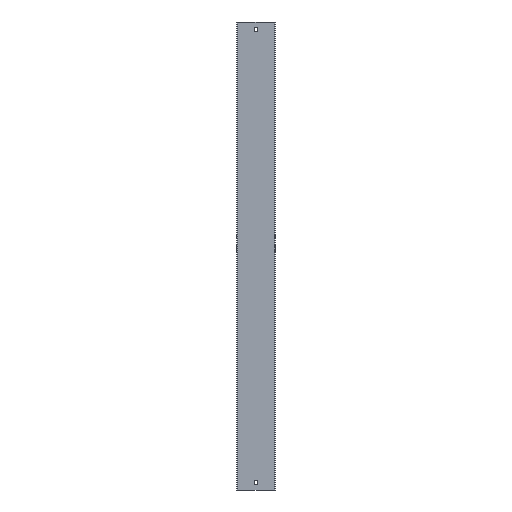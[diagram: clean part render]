
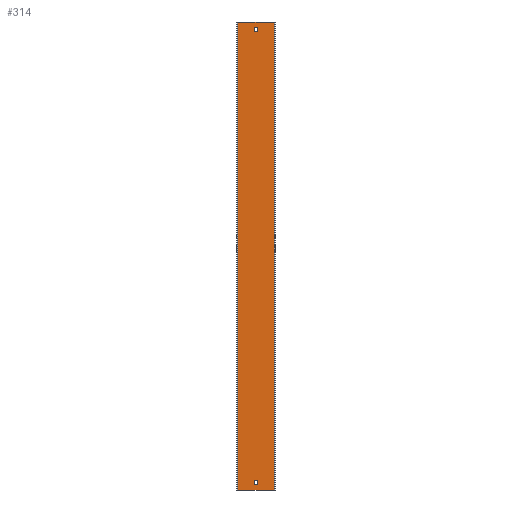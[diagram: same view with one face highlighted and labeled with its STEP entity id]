
A CAD part, front view. The second image highlights one B-rep face of the part: STEP entity #314.
In plain terms, the highlighted planar face has unit normal (0, -1, 0).
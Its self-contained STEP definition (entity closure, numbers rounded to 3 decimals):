
#7 = FACE_BOUND ( 'NONE', #539, .T. ) ;
#10 = DIRECTION ( 'NONE',  ( -1., 0., 0. ) ) ;
#14 = LINE ( 'NONE', #207, #584 ) ;
#22 = EDGE_LOOP ( 'NONE', ( #183, #143, #204, #234 ) ) ;
#34 = DIRECTION ( 'NONE',  ( 1., 0., 0. ) ) ;
#35 = LINE ( 'NONE', #362, #116 ) ;
#43 = FACE_BOUND ( 'NONE', #22, .T. ) ;
#46 = EDGE_CURVE ( 'NONE', #151, #51, #123, .T. ) ;
#49 = PLANE ( 'NONE',  #428 ) ;
#51 = VERTEX_POINT ( 'NONE', #270 ) ;
#54 = CARTESIAN_POINT ( 'NONE',  ( -3.25, -1.5, 479. ) ) ;
#59 = VERTEX_POINT ( 'NONE', #446 ) ;
#65 = EDGE_CURVE ( 'NONE', #430, #77, #35, .T. ) ;
#66 = DIRECTION ( 'NONE',  ( -1., 0., 0. ) ) ;
#68 = VERTEX_POINT ( 'NONE', #344 ) ;
#77 = VERTEX_POINT ( 'NONE', #291 ) ;
#79 = CARTESIAN_POINT ( 'NONE',  ( -39.5, -1.5, 500. ) ) ;
#96 = LINE ( 'NONE', #285, #470 ) ;
#110 = DIRECTION ( 'NONE',  ( 1., 0., 0. ) ) ;
#116 = VECTOR ( 'NONE', #536, 1000. ) ;
#123 = LINE ( 'NONE', #79, #474 ) ;
#132 = LINE ( 'NONE', #392, #144 ) ;
#135 = CARTESIAN_POINT ( 'NONE',  ( 39.5, -1.5, 500. ) ) ;
#143 = ORIENTED_EDGE ( 'NONE', *, *, #200, .F. ) ;
#144 = VECTOR ( 'NONE', #537, 1000. ) ;
#151 = VERTEX_POINT ( 'NONE', #180 ) ;
#156 = LINE ( 'NONE', #570, #296 ) ;
#177 = ORIENTED_EDGE ( 'NONE', *, *, #46, .T. ) ;
#178 = EDGE_CURVE ( 'NONE', #338, #430, #217, .T. ) ;
#180 = CARTESIAN_POINT ( 'NONE',  ( -39.5, -1.5, 500. ) ) ;
#183 = ORIENTED_EDGE ( 'NONE', *, *, #493, .F. ) ;
#185 = DIRECTION ( 'NONE',  ( -1., 0., 0. ) ) ;
#200 = EDGE_CURVE ( 'NONE', #77, #522, #397, .T. ) ;
#204 = ORIENTED_EDGE ( 'NONE', *, *, #65, .F. ) ;
#207 = CARTESIAN_POINT ( 'NONE',  ( -3.25, -1.5, 500. ) ) ;
#211 = VERTEX_POINT ( 'NONE', #361 ) ;
#212 = CARTESIAN_POINT ( 'NONE',  ( -41., -1.5, -500. ) ) ;
#214 = LINE ( 'NONE', #339, #228 ) ;
#217 = LINE ( 'NONE', #312, #497 ) ;
#220 = CARTESIAN_POINT ( 'NONE',  ( 39.5, -1.5, 500. ) ) ;
#223 = VECTOR ( 'NONE', #315, 1000. ) ;
#228 = VECTOR ( 'NONE', #110, 1000. ) ;
#234 = ORIENTED_EDGE ( 'NONE', *, *, #178, .F. ) ;
#238 = DIRECTION ( 'NONE',  ( 0., -1., 0. ) ) ;
#242 = CARTESIAN_POINT ( 'NONE',  ( 3.25, -1.5, -488. ) ) ;
#253 = LINE ( 'NONE', #212, #400 ) ;
#263 = DIRECTION ( 'NONE',  ( 0., 0., -1. ) ) ;
#264 = ORIENTED_EDGE ( 'NONE', *, *, #561, .F. ) ;
#266 = CARTESIAN_POINT ( 'NONE',  ( -3.25, -1.5, 488. ) ) ;
#270 = CARTESIAN_POINT ( 'NONE',  ( -39.5, -1.5, -500. ) ) ;
#281 = EDGE_CURVE ( 'NONE', #543, #151, #96, .T. ) ;
#285 = CARTESIAN_POINT ( 'NONE',  ( -41., -1.5, 500. ) ) ;
#291 = CARTESIAN_POINT ( 'NONE',  ( 3.25, -1.5, 488. ) ) ;
#293 = VECTOR ( 'NONE', #185, 1000. ) ;
#296 = VECTOR ( 'NONE', #426, 1000. ) ;
#305 = EDGE_CURVE ( 'NONE', #340, #59, #337, .T. ) ;
#307 = LINE ( 'NONE', #135, #223 ) ;
#312 = CARTESIAN_POINT ( 'NONE',  ( -41., -1.5, 479. ) ) ;
#314 = ADVANCED_FACE ( 'NONE', ( #43, #499, #7 ), #49, .T. ) ;
#315 = DIRECTION ( 'NONE',  ( 0., 0., -1. ) ) ;
#324 = ORIENTED_EDGE ( 'NONE', *, *, #422, .T. ) ;
#326 = CARTESIAN_POINT ( 'NONE',  ( -41., -1.5, -488. ) ) ;
#334 = ORIENTED_EDGE ( 'NONE', *, *, #558, .T. ) ;
#337 = LINE ( 'NONE', #326, #293 ) ;
#338 = VERTEX_POINT ( 'NONE', #54 ) ;
#339 = CARTESIAN_POINT ( 'NONE',  ( -41., -1.5, -479. ) ) ;
#340 = VERTEX_POINT ( 'NONE', #242 ) ;
#344 = CARTESIAN_POINT ( 'NONE',  ( 3.25, -1.5, -479. ) ) ;
#361 = CARTESIAN_POINT ( 'NONE',  ( -3.25, -1.5, -479. ) ) ;
#362 = CARTESIAN_POINT ( 'NONE',  ( 3.25, -1.5, 500. ) ) ;
#386 = ORIENTED_EDGE ( 'NONE', *, *, #281, .T. ) ;
#391 = EDGE_LOOP ( 'NONE', ( #477, #264, #386, #177 ) ) ;
#392 = CARTESIAN_POINT ( 'NONE',  ( 3.25, -1.5, 500. ) ) ;
#395 = EDGE_CURVE ( 'NONE', #488, #51, #253, .T. ) ;
#397 = LINE ( 'NONE', #579, #440 ) ;
#400 = VECTOR ( 'NONE', #66, 1000. ) ;
#408 = CARTESIAN_POINT ( 'NONE',  ( -41., -1.5, 500. ) ) ;
#412 = DIRECTION ( 'NONE',  ( 0., 0., -1. ) ) ;
#422 = EDGE_CURVE ( 'NONE', #59, #211, #156, .T. ) ;
#426 = DIRECTION ( 'NONE',  ( 0., 0., 1. ) ) ;
#428 = AXIS2_PLACEMENT_3D ( 'NONE', #408, #238, #412 ) ;
#429 = CARTESIAN_POINT ( 'NONE',  ( 3.25, -1.5, 479. ) ) ;
#430 = VERTEX_POINT ( 'NONE', #429 ) ;
#440 = VECTOR ( 'NONE', #443, 1000. ) ;
#443 = DIRECTION ( 'NONE',  ( -1., 0., 0. ) ) ;
#446 = CARTESIAN_POINT ( 'NONE',  ( -3.25, -1.5, -488. ) ) ;
#470 = VECTOR ( 'NONE', #10, 1000. ) ;
#474 = VECTOR ( 'NONE', #263, 1000. ) ;
#477 = ORIENTED_EDGE ( 'NONE', *, *, #395, .F. ) ;
#485 = EDGE_CURVE ( 'NONE', #211, #68, #214, .T. ) ;
#488 = VERTEX_POINT ( 'NONE', #513 ) ;
#493 = EDGE_CURVE ( 'NONE', #522, #338, #14, .T. ) ;
#494 = DIRECTION ( 'NONE',  ( 0., 0., -1. ) ) ;
#497 = VECTOR ( 'NONE', #34, 1000. ) ;
#499 = FACE_OUTER_BOUND ( 'NONE', #391, .T. ) ;
#513 = CARTESIAN_POINT ( 'NONE',  ( 39.5, -1.5, -500. ) ) ;
#518 = ORIENTED_EDGE ( 'NONE', *, *, #305, .T. ) ;
#522 = VERTEX_POINT ( 'NONE', #266 ) ;
#536 = DIRECTION ( 'NONE',  ( 0., 0., 1. ) ) ;
#537 = DIRECTION ( 'NONE',  ( 0., 0., -1. ) ) ;
#539 = EDGE_LOOP ( 'NONE', ( #518, #324, #565, #334 ) ) ;
#543 = VERTEX_POINT ( 'NONE', #220 ) ;
#558 = EDGE_CURVE ( 'NONE', #68, #340, #132, .T. ) ;
#561 = EDGE_CURVE ( 'NONE', #543, #488, #307, .T. ) ;
#565 = ORIENTED_EDGE ( 'NONE', *, *, #485, .T. ) ;
#570 = CARTESIAN_POINT ( 'NONE',  ( -3.25, -1.5, 500. ) ) ;
#579 = CARTESIAN_POINT ( 'NONE',  ( -41., -1.5, 488. ) ) ;
#584 = VECTOR ( 'NONE', #494, 1000. ) ;
